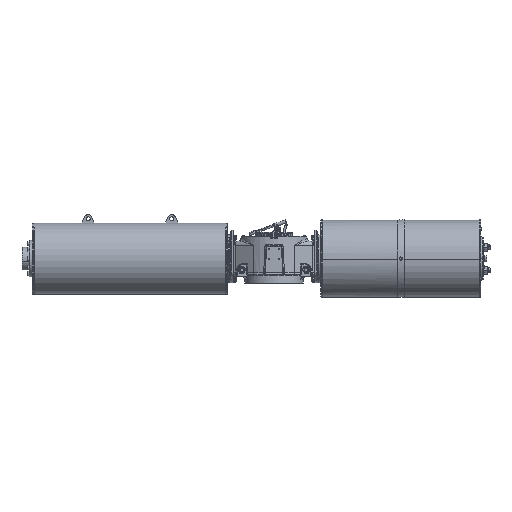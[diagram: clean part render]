
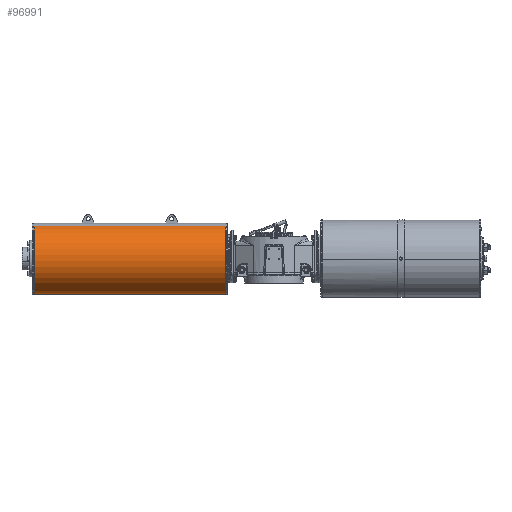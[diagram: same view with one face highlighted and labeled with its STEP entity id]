
A CAD part, front view. The second image highlights one B-rep face of the part: STEP entity #96991.
In plain terms, the highlighted cylindrical face has radius 340 mm (diameter 680 mm), a partial arc.
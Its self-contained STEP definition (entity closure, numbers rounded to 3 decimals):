
#1145 = LINE ( 'NONE', #50707, #11614 ) ;
#11614 = VECTOR ( 'NONE', #134893, 1000. ) ;
#16754 = CARTESIAN_POINT ( 'NONE',  ( -2298., 203., 168. ) ) ;
#17851 = LINE ( 'NONE', #149312, #31860 ) ;
#20601 = CIRCLE ( 'NONE', #78468, 340. ) ;
#23822 = EDGE_LOOP ( 'NONE', ( #43370, #72864, #136336, #72645 ) ) ;
#27357 = DIRECTION ( 'NONE',  ( 0., -0.402, 0.916 ) ) ;
#27768 = VERTEX_POINT ( 'NONE', #33437 ) ;
#31860 = VECTOR ( 'NONE', #76916, 1000. ) ;
#33437 = CARTESIAN_POINT ( 'NONE',  ( -2293.385, 339.661, -143.326 ) ) ;
#42204 = VERTEX_POINT ( 'NONE', #97143 ) ;
#42812 = EDGE_CURVE ( 'NONE', #27768, #145768, #1145, .T. ) ;
#43370 = ORIENTED_EDGE ( 'NONE', *, *, #128333, .F. ) ;
#47153 = AXIS2_PLACEMENT_3D ( 'NONE', #16754, #146664, #100183 ) ;
#48048 = AXIS2_PLACEMENT_3D ( 'NONE', #148867, #79603, #115030 ) ;
#50639 = FACE_OUTER_BOUND ( 'NONE', #23822, .T. ) ;
#50707 = CARTESIAN_POINT ( 'NONE',  ( -2298., 339.661, -143.326 ) ) ;
#51156 = EDGE_CURVE ( 'NONE', #145768, #133484, #20601, .T. ) ;
#53294 = DIRECTION ( 'NONE',  ( -1., 0., 0. ) ) ;
#72645 = ORIENTED_EDGE ( 'NONE', *, *, #51156, .T. ) ;
#72864 = ORIENTED_EDGE ( 'NONE', *, *, #155602, .T. ) ;
#76916 = DIRECTION ( 'NONE',  ( 1., 0., 0. ) ) ;
#78468 = AXIS2_PLACEMENT_3D ( 'NONE', #135921, #53294, #27357 ) ;
#79603 = DIRECTION ( 'NONE',  ( 1., 0., 0. ) ) ;
#88477 = CARTESIAN_POINT ( 'NONE',  ( -462.615, 339.661, -143.326 ) ) ;
#96991 = ADVANCED_FACE ( 'NONE', ( #50639 ), #112785, .T. ) ;
#97143 = CARTESIAN_POINT ( 'NONE',  ( -2293.385, 66.339, 479.326 ) ) ;
#100183 = DIRECTION ( 'NONE',  ( 0., 0.402, -0.916 ) ) ;
#112785 = CYLINDRICAL_SURFACE ( 'NONE', #47153, 340. ) ;
#115030 = DIRECTION ( 'NONE',  ( 0., -0.402, 0.916 ) ) ;
#115897 = CIRCLE ( 'NONE', #48048, 340. ) ;
#128333 = EDGE_CURVE ( 'NONE', #42204, #133484, #17851, .T. ) ;
#131480 = CARTESIAN_POINT ( 'NONE',  ( -462.615, 66.339, 479.326 ) ) ;
#133484 = VERTEX_POINT ( 'NONE', #131480 ) ;
#134893 = DIRECTION ( 'NONE',  ( 1., 0., 0. ) ) ;
#135921 = CARTESIAN_POINT ( 'NONE',  ( -462.615, 203., 168. ) ) ;
#136336 = ORIENTED_EDGE ( 'NONE', *, *, #42812, .T. ) ;
#145768 = VERTEX_POINT ( 'NONE', #88477 ) ;
#146664 = DIRECTION ( 'NONE',  ( 1., 0., 0. ) ) ;
#148867 = CARTESIAN_POINT ( 'NONE',  ( -2293.385, 203., 168. ) ) ;
#149312 = CARTESIAN_POINT ( 'NONE',  ( -2298., 66.339, 479.326 ) ) ;
#155602 = EDGE_CURVE ( 'NONE', #42204, #27768, #115897, .T. ) ;
